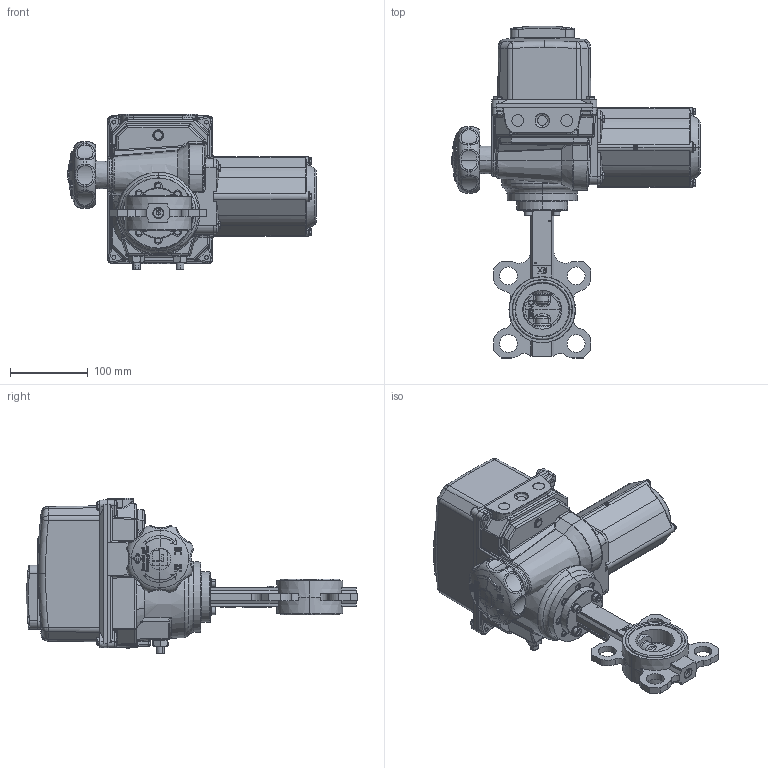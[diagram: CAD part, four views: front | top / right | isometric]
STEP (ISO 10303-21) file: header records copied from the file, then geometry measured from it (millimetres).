
FILE_DESCRIPTION (( 'STEP AP203' ), '1' );
FILE_NAME ('VPI-B04 DN50.step', '2016-09-29T14:38:28', ( 'TECOFI' ), ( '' ), 'SwSTEP 2.0', 'SolidWorks 2014', '' );
FILE_SCHEMA (( 'CONFIG_CONTROL_DESIGN' ));
Length unit declared in the file: millimetre
Products named in the file (1): VPI-B04 DN50
Bounding box: 319.25 x 426.7 x 199.8 mm (x, y, z)
Volume: 5234345.4 mm3; surface area: 320405.6 mm2
Topology: 14 solids, 14 shells, 2736 faces, 7047 edges, 4484 vertices
Faces by surface type: plane 1320, bspline 550, cylinder 483, cone 145, torus 130, sphere 108
Entity records: 113920 total; most frequent: CARTESIAN_POINT 51296, ORIENTED_EDGE 14004, DIRECTION 11663, EDGE_CURVE 7002, VERTEX_POINT 4484, AXIS2_PLACEMENT_3D 4180, LINE 3303, VECTOR 3303
